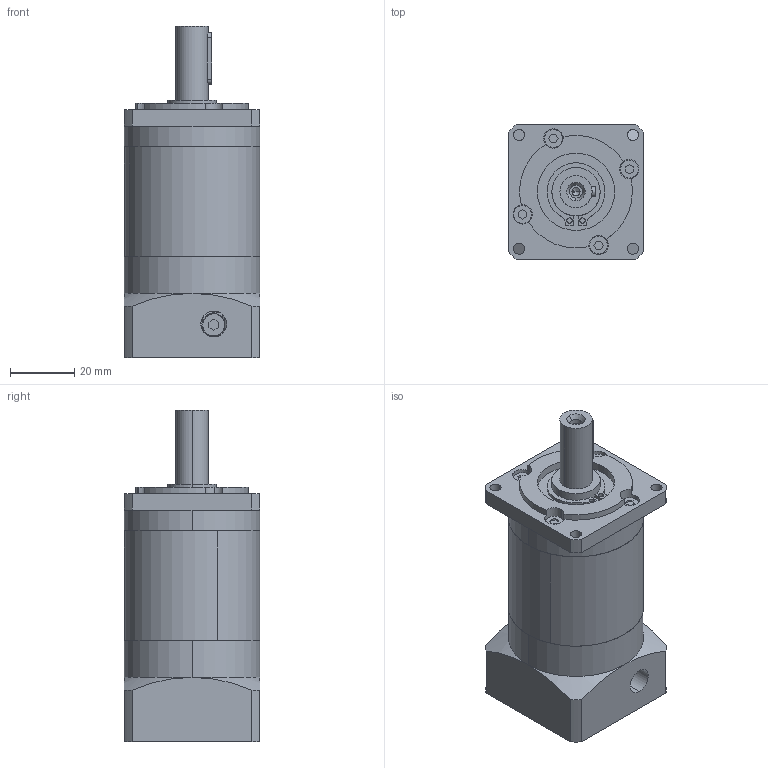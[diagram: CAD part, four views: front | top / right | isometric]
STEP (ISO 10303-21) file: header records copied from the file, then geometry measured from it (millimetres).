
FILE_DESCRIPTION (( 'STEP AP214' ), '1' );
FILE_NAME ('PLF040-L2-S2-P2 8-30-46-M4.STEP', '2021-04-24T03:02:57', ( 'Microsoft' ), ( 'Microsoft China' ), 'SwSTEP 2.0', 'SolidWorks 2016', '' );
FILE_SCHEMA (( 'AUTOMOTIVE_DESIGN' ));
Length unit declared in the file: millimetre
Products named in the file (7): 邧埴瑩 3x3x16; PLF40 奻屳唳_D1-70 D2-5.5 D3-14 D4-17 D5-50 L1-30 L2-35 L3-3 A1-60 S1-3 S2-20 S3-5 S4-18 B-5 H-16 C-M5; 囀鞠褒蹟佪-M4℅12; PLF40 內齿圈_二级内齿圈; PLF040-L2-S2-P2 8-30-46-M4; GB／T276-94深沟球轴承61902-2RZ; PLF40 帣釱_D6-60 D7-14 梓袧
Assembly tree (6 placements, depth 2):
  PLF040-L2-S2-P2 8-30-46-M4
    PLF40 奻屳唳_D1-70 D2-5.5 D3-14 D4-17 D5-50 L1-30 L2-35 L3-3 A1-60 S1-3 S2-20 S3-5 S4-18 B-5 H-16 C-M5
    PLF40 內齿圈_二级内齿圈
    PLF40 帣釱_D6-60 D7-14 梓袧
    邧埴瑩 3x3x16
    囀鞠褒蹟佪-M4℅12
    GB／T276-94深沟球轴承61902-2RZ
Bounding box: 42 x 42 x 103 mm (x, y, z)
Volume: 104216.7 mm3; surface area: 33285.7 mm2
Topology: 6 solids, 6 shells, 407 faces, 1106 edges, 719 vertices
Faces by surface type: cylinder 139, plane 136, bspline 118, cone 14
Entity records: 23188 total; most frequent: CARTESIAN_POINT 8881, ORIENTED_EDGE 2192, DIRECTION 1755, EDGE_CURVE 1096, VERTEX_POINT 719, AXIS2_PLACEMENT_3D 713, EDGE_LOOP 483, UNCERTAINTY_MEASURE_WITH_UNIT 426
